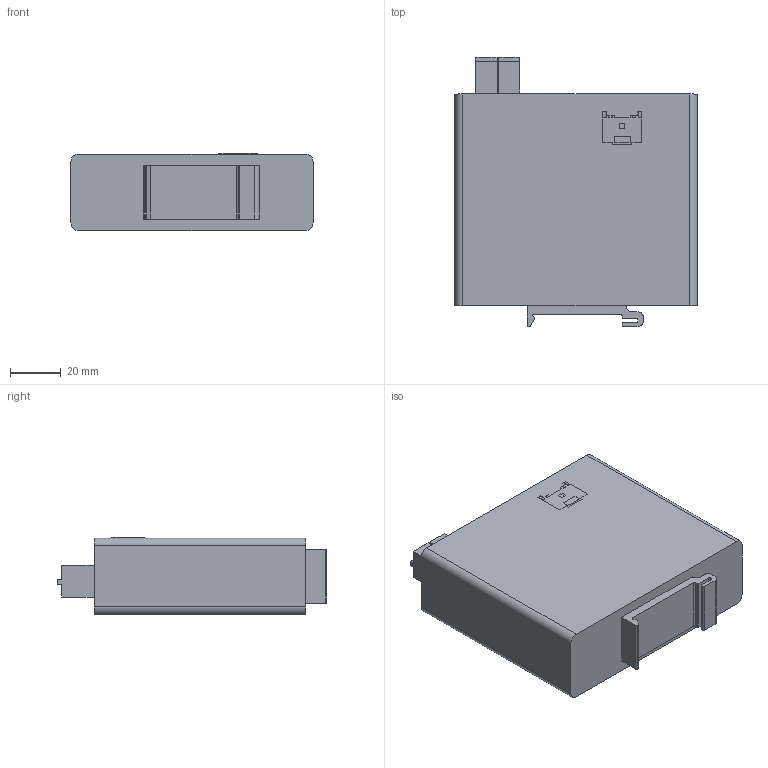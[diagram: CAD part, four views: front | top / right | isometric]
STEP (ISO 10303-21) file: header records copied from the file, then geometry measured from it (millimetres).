
FILE_DESCRIPTION((''),'2;1');
FILE_NAME('ASM0002_ASM_15_ASM_ASM','2026-05-28T',('Administrator'),(''),'PRO/ENGINEER BY PARAMETRIC TECHNOLOGY CORPORATION, 2015240','PRO/ENGINEER BY PARAMETRIC TECHNOLOGY CORPORATION, 2015240','');
FILE_SCHEMA(('CONFIG_CONTROL_DESIGN'));
Products named in the file (15): PRT0001_8; PRT0005; PRT0006; PRT0008; ASM0003_ASM; ASM0002_ASM; AMP_RJ45_MODULAR_JACK_HOUSING_1; AMP_RJ45_MODULAR_JACK_PIN_1; PRT0007; AMP_RJ45_MODULAR_JACK_SHIELD_1; ASM0001_ASM_1_ASM_ASM; PRT0009; 01_2; PRT0004_2; ASM0002_ASM_15_ASM_ASM
Assembly tree (40 placements, depth 4):
  ASM0002_ASM_15_ASM_ASM
    PRT0001_8
    ASM0002_ASM
      ASM0003_ASM
        PRT0005  x2
        PRT0006  x8
        PRT0008
    ASM0001_ASM_1_ASM_ASM
      AMP_RJ45_MODULAR_JACK_HOUSING_1
      AMP_RJ45_MODULAR_JACK_PIN_1  x8
      PRT0007  x8
      AMP_RJ45_MODULAR_JACK_SHIELD_1
    PRT0009  x2
    01_2
    PRT0004_2  x4
Bounding box: 95 x 105.61 x 30.23 mm (x, y, z)
Volume: 239061.4 mm3; surface area: 46159.3 mm2
Topology: 37 solids, 37 shells, 3285 faces, 9455 edges, 6299 vertices
Faces by surface type: plane 2460, cylinder 704, bspline 80, sphere 33, torus 8
Entity records: 93368 total; most frequent: CARTESIAN_POINT 20308, ORIENTED_EDGE 15692, DIRECTION 14730, EDGE_CURVE 7846, VECTOR 5986, LINE 5986, VERTEX_POINT 5214, AXIS2_PLACEMENT_3D 4372
